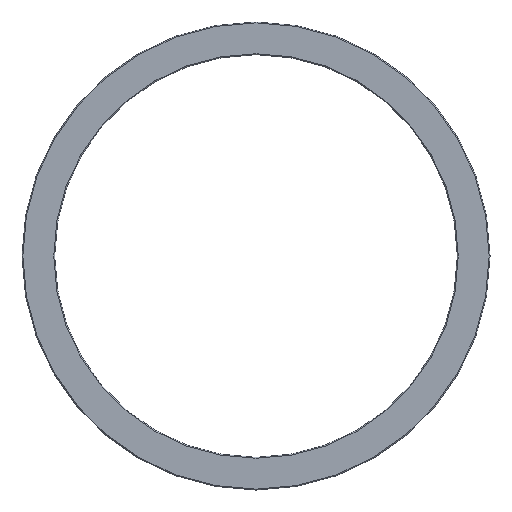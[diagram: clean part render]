
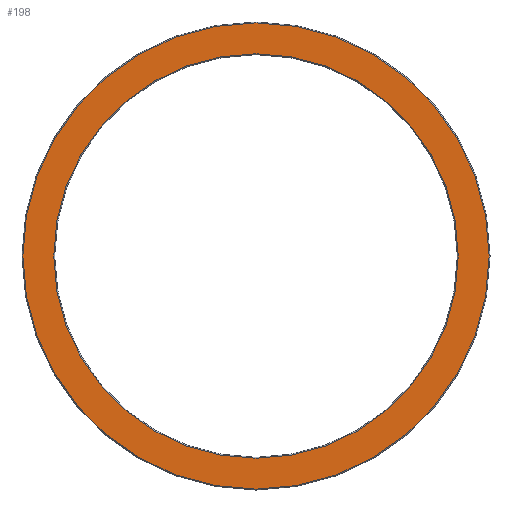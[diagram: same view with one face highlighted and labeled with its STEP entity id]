
A CAD part, left-side view. The second image highlights one B-rep face of the part: STEP entity #198.
In plain terms, the highlighted planar face has unit normal (-1, 0, 0).
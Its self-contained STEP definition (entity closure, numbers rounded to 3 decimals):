
#27=PLANE('',#238);
#47=ORIENTED_EDGE('',*,*,#75,.T.);
#48=ORIENTED_EDGE('',*,*,#76,.T.);
#75=EDGE_CURVE('',#92,#92,#109,.T.);
#76=EDGE_CURVE('',#93,#93,#110,.F.);
#92=VERTEX_POINT('',#355);
#93=VERTEX_POINT('',#357);
#109=CIRCLE('',#239,160.);
#110=CIRCLE('',#240,184.45);
#132=EDGE_LOOP('',(#47));
#133=EDGE_LOOP('',(#48));
#166=FACE_BOUND('',#132,.T.);
#167=FACE_BOUND('',#133,.T.);
#198=ADVANCED_FACE('',(#166,#167),#27,.F.);
#238=AXIS2_PLACEMENT_3D('',#353,#292,#293);
#239=AXIS2_PLACEMENT_3D('',#354,#294,#295);
#240=AXIS2_PLACEMENT_3D('',#356,#296,#297);
#292=DIRECTION('',(1.,0.,0.));
#293=DIRECTION('',(0.,0.,-1.));
#294=DIRECTION('',(1.,0.,0.));
#295=DIRECTION('',(0.,0.,-1.));
#296=DIRECTION('',(1.,0.,0.));
#297=DIRECTION('',(0.,0.,-1.));
#353=CARTESIAN_POINT('',(-17.,0.,185.15));
#354=CARTESIAN_POINT('',(-17.,0.,0.));
#355=CARTESIAN_POINT('',(-17.,0.,-160.));
#356=CARTESIAN_POINT('',(-17.,0.,0.));
#357=CARTESIAN_POINT('',(-17.,0.,-184.45));
